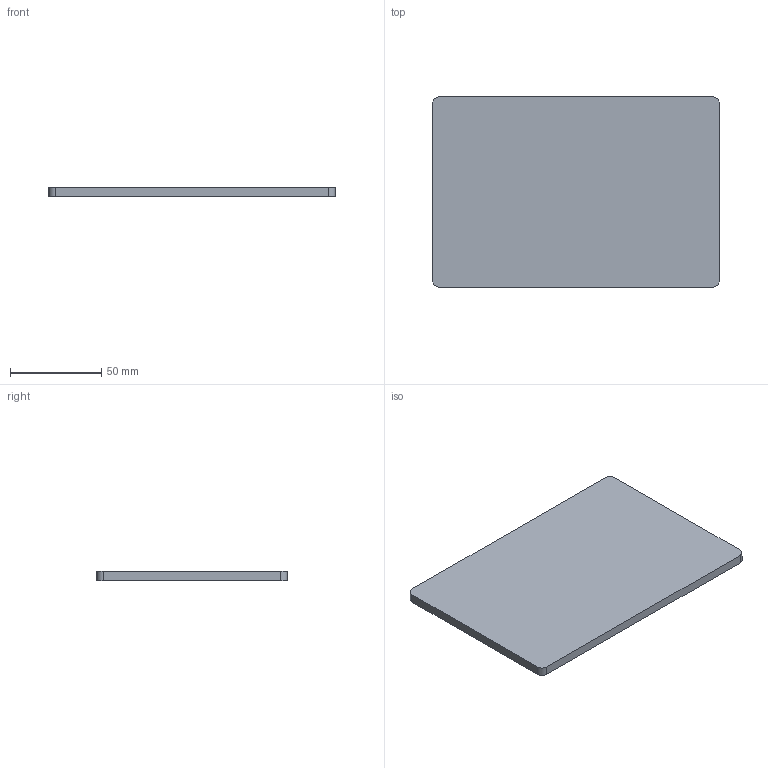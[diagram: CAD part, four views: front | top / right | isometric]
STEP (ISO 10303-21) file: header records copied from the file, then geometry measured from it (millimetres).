
FILE_DESCRIPTION (( 'STEP AP214' ), '1' );
FILE_NAME ('3561004901~cat.STEP', '2025-04-28T13:03:58', ( '' ), ( '' ), 'SwSTEP 2.0', 'SolidWorks 2025', '' );
FILE_SCHEMA (( 'AUTOMOTIVE_DESIGN' ));
Length unit declared in the file: millimetre
Products named in the file (1): 3561004901~cat
Bounding box: 157 x 104.5 x 5 mm (x, y, z)
Volume: 81976.9 mm3; surface area: 35374.8 mm2
Topology: 1 solids, 1 shells, 10 faces, 24 edges, 16 vertices
Faces by surface type: plane 6, cylinder 4
Entity records: 319 total; most frequent: DIRECTION 54, CARTESIAN_POINT 51, ORIENTED_EDGE 48, EDGE_CURVE 24, AXIS2_PLACEMENT_3D 19, VERTEX_POINT 16, LINE 16, VECTOR 16
